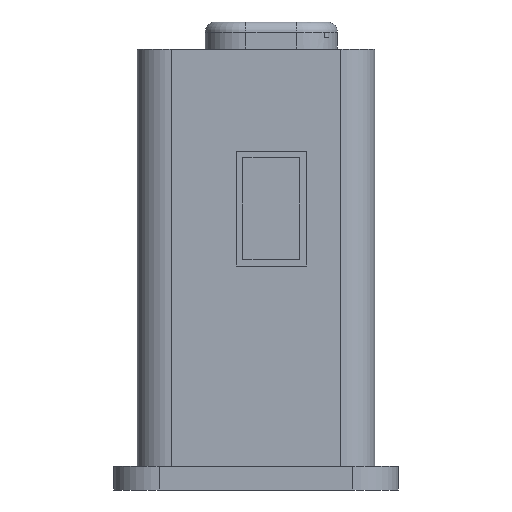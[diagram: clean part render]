
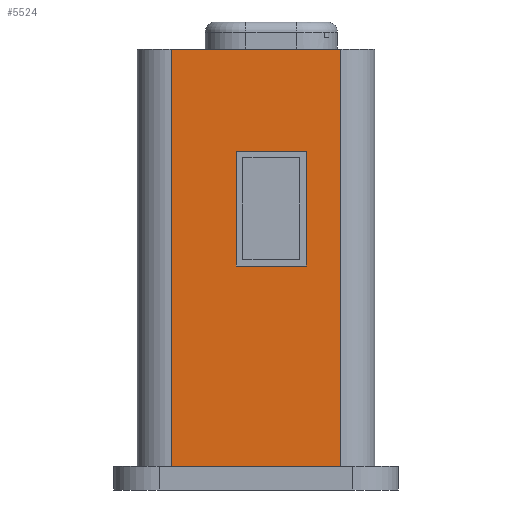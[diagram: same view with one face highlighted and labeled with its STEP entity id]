
A CAD part, left-side view. The second image highlights one B-rep face of the part: STEP entity #5524.
In plain terms, the highlighted planar face has unit normal (-1, 0, 0).
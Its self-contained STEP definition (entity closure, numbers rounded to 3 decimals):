
#43 = PLANE('',#44);
#44 = AXIS2_PLACEMENT_3D('',#45,#46,#47);
#45 = CARTESIAN_POINT('',(0.,0.,14.));
#46 = DIRECTION('',(0.,0.,1.));
#47 = DIRECTION('',(1.,0.,-0.));
#70 = CYLINDRICAL_SURFACE('',#71,20.);
#71 = AXIS2_PLACEMENT_3D('',#72,#73,#74);
#72 = CARTESIAN_POINT('',(-58.,-50.,13.));
#73 = DIRECTION('',(0.,0.,1.));
#74 = DIRECTION('',(0.,-1.,0.));
#98 = PLANE('',#99);
#99 = AXIS2_PLACEMENT_3D('',#100,#101,#102);
#100 = CARTESIAN_POINT('',(0.,0.,260.));
#101 = DIRECTION('',(0.,0.,1.));
#102 = DIRECTION('',(1.,0.,-0.));
#5236 = CYLINDRICAL_SURFACE('',#5237,20.);
#5237 = AXIS2_PLACEMENT_3D('',#5238,#5239,#5240);
#5238 = CARTESIAN_POINT('',(-58.,50.,13.));
#5239 = DIRECTION('',(0.,0.,1.));
#5240 = DIRECTION('',(-0.,1.,0.));
#5430 = VERTEX_POINT('',#5431);
#5431 = CARTESIAN_POINT('',(-78.,50.,14.));
#5453 = EDGE_CURVE('',#5430,#5454,#5456,.T.);
#5454 = VERTEX_POINT('',#5455);
#5455 = CARTESIAN_POINT('',(-78.,50.,260.));
#5456 = SURFACE_CURVE('',#5457,(#5461,#5468),.PCURVE_S1.);
#5457 = LINE('',#5458,#5459);
#5458 = CARTESIAN_POINT('',(-78.,50.,13.));
#5459 = VECTOR('',#5460,1.);
#5460 = DIRECTION('',(0.,0.,1.));
#5461 = PCURVE('',#5236,#5462);
#5462 = DEFINITIONAL_REPRESENTATION('',(#5463),#5467);
#5463 = LINE('',#5464,#5465);
#5464 = CARTESIAN_POINT('',(1.571,0.));
#5465 = VECTOR('',#5466,1.);
#5466 = DIRECTION('',(0.,1.));
#5467 = ( GEOMETRIC_REPRESENTATION_CONTEXT(2) 
PARAMETRIC_REPRESENTATION_CONTEXT() REPRESENTATION_CONTEXT('2D SPACE',''
  ) );
#5468 = PCURVE('',#5469,#5474);
#5469 = PLANE('',#5470);
#5470 = AXIS2_PLACEMENT_3D('',#5471,#5472,#5473);
#5471 = CARTESIAN_POINT('',(-78.,70.,13.));
#5472 = DIRECTION('',(1.,0.,-0.));
#5473 = DIRECTION('',(0.,-1.,0.));
#5474 = DEFINITIONAL_REPRESENTATION('',(#5475),#5479);
#5475 = LINE('',#5476,#5477);
#5476 = CARTESIAN_POINT('',(20.,0.));
#5477 = VECTOR('',#5478,1.);
#5478 = DIRECTION('',(0.,-1.));
#5479 = ( GEOMETRIC_REPRESENTATION_CONTEXT(2) 
PARAMETRIC_REPRESENTATION_CONTEXT() REPRESENTATION_CONTEXT('2D SPACE',''
  ) );
#5524 = ADVANCED_FACE('',(#5525,#5593),#5469,.F.);
#5525 = FACE_BOUND('',#5526,.F.);
#5526 = EDGE_LOOP('',(#5527,#5548,#5549,#5572));
#5527 = ORIENTED_EDGE('',*,*,#5528,.F.);
#5528 = EDGE_CURVE('',#5430,#5529,#5531,.T.);
#5529 = VERTEX_POINT('',#5530);
#5530 = CARTESIAN_POINT('',(-78.,-50.,14.));
#5531 = SURFACE_CURVE('',#5532,(#5536,#5542),.PCURVE_S1.);
#5532 = LINE('',#5533,#5534);
#5533 = CARTESIAN_POINT('',(-78.,35.,14.));
#5534 = VECTOR('',#5535,1.);
#5535 = DIRECTION('',(0.,-1.,0.));
#5536 = PCURVE('',#5469,#5537);
#5537 = DEFINITIONAL_REPRESENTATION('',(#5538),#5541);
#5538 = B_SPLINE_CURVE_WITH_KNOTS('',1,(#5539,#5540),.UNSPECIFIED.,.F.,
  .F.,(2,2),(-15.,85.),.PIECEWISE_BEZIER_KNOTS.);
#5539 = CARTESIAN_POINT('',(20.,-1.));
#5540 = CARTESIAN_POINT('',(120.,-1.));
#5541 = ( GEOMETRIC_REPRESENTATION_CONTEXT(2) 
PARAMETRIC_REPRESENTATION_CONTEXT() REPRESENTATION_CONTEXT('2D SPACE',''
  ) );
#5542 = PCURVE('',#43,#5543);
#5543 = DEFINITIONAL_REPRESENTATION('',(#5544),#5547);
#5544 = B_SPLINE_CURVE_WITH_KNOTS('',1,(#5545,#5546),.UNSPECIFIED.,.F.,
  .F.,(2,2),(-15.,85.),.PIECEWISE_BEZIER_KNOTS.);
#5545 = CARTESIAN_POINT('',(-78.,50.));
#5546 = CARTESIAN_POINT('',(-78.,-50.));
#5547 = ( GEOMETRIC_REPRESENTATION_CONTEXT(2) 
PARAMETRIC_REPRESENTATION_CONTEXT() REPRESENTATION_CONTEXT('2D SPACE',''
  ) );
#5548 = ORIENTED_EDGE('',*,*,#5453,.T.);
#5549 = ORIENTED_EDGE('',*,*,#5550,.T.);
#5550 = EDGE_CURVE('',#5454,#5551,#5553,.T.);
#5551 = VERTEX_POINT('',#5552);
#5552 = CARTESIAN_POINT('',(-78.,-50.,260.));
#5553 = SURFACE_CURVE('',#5554,(#5558,#5565),.PCURVE_S1.);
#5554 = LINE('',#5555,#5556);
#5555 = CARTESIAN_POINT('',(-78.,70.,260.));
#5556 = VECTOR('',#5557,1.);
#5557 = DIRECTION('',(0.,-1.,0.));
#5558 = PCURVE('',#5469,#5559);
#5559 = DEFINITIONAL_REPRESENTATION('',(#5560),#5564);
#5560 = LINE('',#5561,#5562);
#5561 = CARTESIAN_POINT('',(0.,-247.));
#5562 = VECTOR('',#5563,1.);
#5563 = DIRECTION('',(1.,0.));
#5564 = ( GEOMETRIC_REPRESENTATION_CONTEXT(2) 
PARAMETRIC_REPRESENTATION_CONTEXT() REPRESENTATION_CONTEXT('2D SPACE',''
  ) );
#5565 = PCURVE('',#98,#5566);
#5566 = DEFINITIONAL_REPRESENTATION('',(#5567),#5571);
#5567 = LINE('',#5568,#5569);
#5568 = CARTESIAN_POINT('',(-78.,70.));
#5569 = VECTOR('',#5570,1.);
#5570 = DIRECTION('',(0.,-1.));
#5571 = ( GEOMETRIC_REPRESENTATION_CONTEXT(2) 
PARAMETRIC_REPRESENTATION_CONTEXT() REPRESENTATION_CONTEXT('2D SPACE',''
  ) );
#5572 = ORIENTED_EDGE('',*,*,#5573,.F.);
#5573 = EDGE_CURVE('',#5529,#5551,#5574,.T.);
#5574 = SURFACE_CURVE('',#5575,(#5579,#5586),.PCURVE_S1.);
#5575 = LINE('',#5576,#5577);
#5576 = CARTESIAN_POINT('',(-78.,-50.,13.));
#5577 = VECTOR('',#5578,1.);
#5578 = DIRECTION('',(0.,0.,1.));
#5579 = PCURVE('',#5469,#5580);
#5580 = DEFINITIONAL_REPRESENTATION('',(#5581),#5585);
#5581 = LINE('',#5582,#5583);
#5582 = CARTESIAN_POINT('',(120.,0.));
#5583 = VECTOR('',#5584,1.);
#5584 = DIRECTION('',(0.,-1.));
#5585 = ( GEOMETRIC_REPRESENTATION_CONTEXT(2) 
PARAMETRIC_REPRESENTATION_CONTEXT() REPRESENTATION_CONTEXT('2D SPACE',''
  ) );
#5586 = PCURVE('',#70,#5587);
#5587 = DEFINITIONAL_REPRESENTATION('',(#5588),#5592);
#5588 = LINE('',#5589,#5590);
#5589 = CARTESIAN_POINT('',(-1.571,0.));
#5590 = VECTOR('',#5591,1.);
#5591 = DIRECTION('',(-0.,1.));
#5592 = ( GEOMETRIC_REPRESENTATION_CONTEXT(2) 
PARAMETRIC_REPRESENTATION_CONTEXT() REPRESENTATION_CONTEXT('2D SPACE',''
  ) );
#5593 = FACE_BOUND('',#5594,.F.);
#5594 = EDGE_LOOP('',(#5595,#5625,#5653,#5681));
#5595 = ORIENTED_EDGE('',*,*,#5596,.F.);
#5596 = EDGE_CURVE('',#5597,#5599,#5601,.T.);
#5597 = VERTEX_POINT('',#5598);
#5598 = CARTESIAN_POINT('',(-78.,-29.75,132.1));
#5599 = VERTEX_POINT('',#5600);
#5600 = CARTESIAN_POINT('',(-78.,11.75,132.1));
#5601 = SURFACE_CURVE('',#5602,(#5606,#5613),.PCURVE_S1.);
#5602 = LINE('',#5603,#5604);
#5603 = CARTESIAN_POINT('',(-78.,-29.75,132.1));
#5604 = VECTOR('',#5605,1.);
#5605 = DIRECTION('',(0.,1.,0.));
#5606 = PCURVE('',#5469,#5607);
#5607 = DEFINITIONAL_REPRESENTATION('',(#5608),#5612);
#5608 = LINE('',#5609,#5610);
#5609 = CARTESIAN_POINT('',(99.75,-119.1));
#5610 = VECTOR('',#5611,1.);
#5611 = DIRECTION('',(-1.,0.));
#5612 = ( GEOMETRIC_REPRESENTATION_CONTEXT(2) 
PARAMETRIC_REPRESENTATION_CONTEXT() REPRESENTATION_CONTEXT('2D SPACE',''
  ) );
#5613 = PCURVE('',#5614,#5619);
#5614 = PLANE('',#5615);
#5615 = AXIS2_PLACEMENT_3D('',#5616,#5617,#5618);
#5616 = CARTESIAN_POINT('',(-78.,-29.75,132.1));
#5617 = DIRECTION('',(0.,0.,1.));
#5618 = DIRECTION('',(0.,1.,0.));
#5619 = DEFINITIONAL_REPRESENTATION('',(#5620),#5624);
#5620 = LINE('',#5621,#5622);
#5621 = CARTESIAN_POINT('',(0.,0.));
#5622 = VECTOR('',#5623,1.);
#5623 = DIRECTION('',(1.,0.));
#5624 = ( GEOMETRIC_REPRESENTATION_CONTEXT(2) 
PARAMETRIC_REPRESENTATION_CONTEXT() REPRESENTATION_CONTEXT('2D SPACE',''
  ) );
#5625 = ORIENTED_EDGE('',*,*,#5626,.F.);
#5626 = EDGE_CURVE('',#5627,#5597,#5629,.T.);
#5627 = VERTEX_POINT('',#5628);
#5628 = CARTESIAN_POINT('',(-78.,-29.75,199.9));
#5629 = SURFACE_CURVE('',#5630,(#5634,#5641),.PCURVE_S1.);
#5630 = LINE('',#5631,#5632);
#5631 = CARTESIAN_POINT('',(-78.,-29.75,199.9));
#5632 = VECTOR('',#5633,1.);
#5633 = DIRECTION('',(0.,0.,-1.));
#5634 = PCURVE('',#5469,#5635);
#5635 = DEFINITIONAL_REPRESENTATION('',(#5636),#5640);
#5636 = LINE('',#5637,#5638);
#5637 = CARTESIAN_POINT('',(99.75,-186.9));
#5638 = VECTOR('',#5639,1.);
#5639 = DIRECTION('',(0.,1.));
#5640 = ( GEOMETRIC_REPRESENTATION_CONTEXT(2) 
PARAMETRIC_REPRESENTATION_CONTEXT() REPRESENTATION_CONTEXT('2D SPACE',''
  ) );
#5641 = PCURVE('',#5642,#5647);
#5642 = PLANE('',#5643);
#5643 = AXIS2_PLACEMENT_3D('',#5644,#5645,#5646);
#5644 = CARTESIAN_POINT('',(-78.,-29.75,199.9));
#5645 = DIRECTION('',(-0.,1.,0.));
#5646 = DIRECTION('',(0.,0.,-1.));
#5647 = DEFINITIONAL_REPRESENTATION('',(#5648),#5652);
#5648 = LINE('',#5649,#5650);
#5649 = CARTESIAN_POINT('',(0.,0.));
#5650 = VECTOR('',#5651,1.);
#5651 = DIRECTION('',(1.,0.));
#5652 = ( GEOMETRIC_REPRESENTATION_CONTEXT(2) 
PARAMETRIC_REPRESENTATION_CONTEXT() REPRESENTATION_CONTEXT('2D SPACE',''
  ) );
#5653 = ORIENTED_EDGE('',*,*,#5654,.F.);
#5654 = EDGE_CURVE('',#5655,#5627,#5657,.T.);
#5655 = VERTEX_POINT('',#5656);
#5656 = CARTESIAN_POINT('',(-78.,11.75,199.9));
#5657 = SURFACE_CURVE('',#5658,(#5662,#5669),.PCURVE_S1.);
#5658 = LINE('',#5659,#5660);
#5659 = CARTESIAN_POINT('',(-78.,11.75,199.9));
#5660 = VECTOR('',#5661,1.);
#5661 = DIRECTION('',(0.,-1.,0.));
#5662 = PCURVE('',#5469,#5663);
#5663 = DEFINITIONAL_REPRESENTATION('',(#5664),#5668);
#5664 = LINE('',#5665,#5666);
#5665 = CARTESIAN_POINT('',(58.25,-186.9));
#5666 = VECTOR('',#5667,1.);
#5667 = DIRECTION('',(1.,0.));
#5668 = ( GEOMETRIC_REPRESENTATION_CONTEXT(2) 
PARAMETRIC_REPRESENTATION_CONTEXT() REPRESENTATION_CONTEXT('2D SPACE',''
  ) );
#5669 = PCURVE('',#5670,#5675);
#5670 = PLANE('',#5671);
#5671 = AXIS2_PLACEMENT_3D('',#5672,#5673,#5674);
#5672 = CARTESIAN_POINT('',(-78.,11.75,199.9));
#5673 = DIRECTION('',(0.,0.,-1.));
#5674 = DIRECTION('',(0.,-1.,0.));
#5675 = DEFINITIONAL_REPRESENTATION('',(#5676),#5680);
#5676 = LINE('',#5677,#5678);
#5677 = CARTESIAN_POINT('',(0.,-0.));
#5678 = VECTOR('',#5679,1.);
#5679 = DIRECTION('',(1.,0.));
#5680 = ( GEOMETRIC_REPRESENTATION_CONTEXT(2) 
PARAMETRIC_REPRESENTATION_CONTEXT() REPRESENTATION_CONTEXT('2D SPACE',''
  ) );
#5681 = ORIENTED_EDGE('',*,*,#5682,.F.);
#5682 = EDGE_CURVE('',#5599,#5655,#5683,.T.);
#5683 = SURFACE_CURVE('',#5684,(#5688,#5695),.PCURVE_S1.);
#5684 = LINE('',#5685,#5686);
#5685 = CARTESIAN_POINT('',(-78.,11.75,132.1));
#5686 = VECTOR('',#5687,1.);
#5687 = DIRECTION('',(0.,0.,1.));
#5688 = PCURVE('',#5469,#5689);
#5689 = DEFINITIONAL_REPRESENTATION('',(#5690),#5694);
#5690 = LINE('',#5691,#5692);
#5691 = CARTESIAN_POINT('',(58.25,-119.1));
#5692 = VECTOR('',#5693,1.);
#5693 = DIRECTION('',(0.,-1.));
#5694 = ( GEOMETRIC_REPRESENTATION_CONTEXT(2) 
PARAMETRIC_REPRESENTATION_CONTEXT() REPRESENTATION_CONTEXT('2D SPACE',''
  ) );
#5695 = PCURVE('',#5696,#5701);
#5696 = PLANE('',#5697);
#5697 = AXIS2_PLACEMENT_3D('',#5698,#5699,#5700);
#5698 = CARTESIAN_POINT('',(-78.,11.75,132.1));
#5699 = DIRECTION('',(0.,-1.,0.));
#5700 = DIRECTION('',(0.,0.,1.));
#5701 = DEFINITIONAL_REPRESENTATION('',(#5702),#5706);
#5702 = LINE('',#5703,#5704);
#5703 = CARTESIAN_POINT('',(0.,0.));
#5704 = VECTOR('',#5705,1.);
#5705 = DIRECTION('',(1.,0.));
#5706 = ( GEOMETRIC_REPRESENTATION_CONTEXT(2) 
PARAMETRIC_REPRESENTATION_CONTEXT() REPRESENTATION_CONTEXT('2D SPACE',''
  ) );
